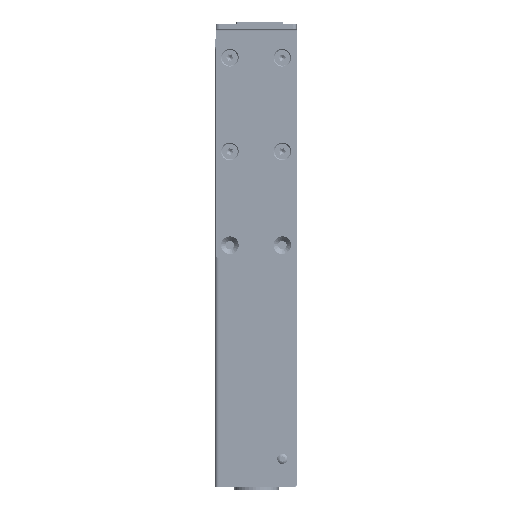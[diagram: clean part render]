
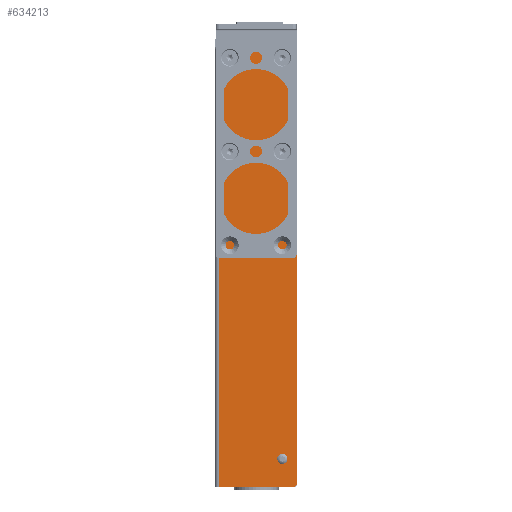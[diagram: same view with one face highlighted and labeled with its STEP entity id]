
A CAD part, left-side view. The second image highlights one B-rep face of the part: STEP entity #634213.
In plain terms, the highlighted planar face has unit normal (-1, 0, 0).
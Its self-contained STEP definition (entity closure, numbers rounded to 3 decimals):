
#17061 = VERTEX_POINT ( 'NONE', #1084762 ) ;
#17949 = DIRECTION ( 'NONE',  ( -1., 0., 0. ) ) ;
#23628 = DIRECTION ( 'NONE',  ( 0., -1., 0. ) ) ;
#35778 = DIRECTION ( 'NONE',  ( 1., 0., 0. ) ) ;
#37210 = CARTESIAN_POINT ( 'NONE',  ( -220., -2., 116.85 ) ) ;
#54537 = AXIS2_PLACEMENT_3D ( 'NONE', #322136, #945491, #847524 ) ;
#70189 = EDGE_CURVE ( 'NONE', #318135, #196844, #514395, .T. ) ;
#71410 = EDGE_CURVE ( 'NONE', #783633, #783633, #471752, .T. ) ;
#92162 = VERTEX_POINT ( 'NONE', #897837 ) ;
#117810 = DIRECTION ( 'NONE',  ( -1., 0., 0. ) ) ;
#123766 = ORIENTED_EDGE ( 'NONE', *, *, #754030, .T. ) ;
#129542 = DIRECTION ( 'NONE',  ( 0., 0., 1. ) ) ;
#146667 = AXIS2_PLACEMENT_3D ( 'NONE', #1050192, #1131036, #253632 ) ;
#157588 = CARTESIAN_POINT ( 'NONE',  ( -220., -41.8, 116.85 ) ) ;
#158159 = EDGE_CURVE ( 'NONE', #752779, #566073, #729357, .T. ) ;
#158429 = AXIS2_PLACEMENT_3D ( 'NONE', #613900, #706191, #538640 ) ;
#159098 = CIRCLE ( 'NONE', #877713, 1.8 ) ;
#183123 = CIRCLE ( 'NONE', #54537, 1.8 ) ;
#188076 = ORIENTED_EDGE ( 'NONE', *, *, #70189, .T. ) ;
#196844 = VERTEX_POINT ( 'NONE', #600708 ) ;
#216193 = LINE ( 'NONE', #37210, #367360 ) ;
#221864 = DIRECTION ( 'NONE',  ( -1., 0., 0. ) ) ;
#226679 = VECTOR ( 'NONE', #1072808, 1000. ) ;
#229085 = ORIENTED_EDGE ( 'NONE', *, *, #71410, .F. ) ;
#241171 = CARTESIAN_POINT ( 'NONE',  ( -220., -38.5, 112.25 ) ) ;
#253632 = DIRECTION ( 'NONE',  ( 0., -1., 0. ) ) ;
#257565 = EDGE_CURVE ( 'NONE', #566073, #961875, #873922, .T. ) ;
#259085 = EDGE_CURVE ( 'NONE', #17061, #17061, #355389, .T. ) ;
#261911 = DIRECTION ( 'NONE',  ( 0., 1., 0. ) ) ;
#280372 = CIRCLE ( 'NONE', #889323, 2.5 ) ;
#281678 = VERTEX_POINT ( 'NONE', #856463 ) ;
#293587 = VECTOR ( 'NONE', #1069224, 1000. ) ;
#318135 = VERTEX_POINT ( 'NONE', #406729 ) ;
#321981 = LINE ( 'NONE', #674207, #739825 ) ;
#322136 = CARTESIAN_POINT ( 'NONE',  ( -220., -36., -100.85 ) ) ;
#326460 = FACE_OUTER_BOUND ( 'NONE', #1060503, .T. ) ;
#329737 = VERTEX_POINT ( 'NONE', #410684 ) ;
#337900 = DIRECTION ( 'NONE',  ( 1., 0., 0. ) ) ;
#348684 = AXIS2_PLACEMENT_3D ( 'NONE', #741643, #221864, #1006999 ) ;
#349267 = FACE_BOUND ( 'NONE', #897667, .T. ) ;
#353123 = VECTOR ( 'NONE', #261911, 1000. ) ;
#355389 = CIRCLE ( 'NONE', #410571, 2.5 ) ;
#365041 = LINE ( 'NONE', #1005320, #293587 ) ;
#367360 = VECTOR ( 'NONE', #129542, 1000. ) ;
#376667 = VERTEX_POINT ( 'NONE', #1026135 ) ;
#383368 = DIRECTION ( 'NONE',  ( 0., 1., 0. ) ) ;
#406729 = CARTESIAN_POINT ( 'NONE',  ( -220., -41.8, -116.85 ) ) ;
#406947 = ORIENTED_EDGE ( 'NONE', *, *, #259085, .F. ) ;
#410571 = AXIS2_PLACEMENT_3D ( 'NONE', #479506, #17949, #23628 ) ;
#410684 = CARTESIAN_POINT ( 'NONE',  ( -220., -10.5, 62.25 ) ) ;
#418279 = VECTOR ( 'NONE', #549554, 1000. ) ;
#424527 = FACE_BOUND ( 'NONE', #598730, .T. ) ;
#430244 = PLANE ( 'NONE',  #901126 ) ;
#445899 = LINE ( 'NONE', #988155, #418279 ) ;
#471752 = CIRCLE ( 'NONE', #158429, 2.5 ) ;
#476826 = CARTESIAN_POINT ( 'NONE',  ( -220., -34.2, -100.85 ) ) ;
#479506 = CARTESIAN_POINT ( 'NONE',  ( -220., -36., 62.25 ) ) ;
#506750 = VERTEX_POINT ( 'NONE', #476826 ) ;
#511154 = CARTESIAN_POINT ( 'NONE',  ( -220., 0., 0. ) ) ;
#513564 = CARTESIAN_POINT ( 'NONE',  ( -220., -8., 112.25 ) ) ;
#514395 = CIRCLE ( 'NONE', #348684, 2. ) ;
#538640 = DIRECTION ( 'NONE',  ( 0., -1., 0. ) ) ;
#540119 = ORIENTED_EDGE ( 'NONE', *, *, #599492, .F. ) ;
#549554 = DIRECTION ( 'NONE',  ( 0., 0., 1. ) ) ;
#549732 = ORIENTED_EDGE ( 'NONE', *, *, #786726, .F. ) ;
#565186 = ORIENTED_EDGE ( 'NONE', *, *, #823772, .T. ) ;
#566073 = VERTEX_POINT ( 'NONE', #157588 ) ;
#567950 = ORIENTED_EDGE ( 'NONE', *, *, #722331, .T. ) ;
#568757 = ORIENTED_EDGE ( 'NONE', *, *, #158159, .T. ) ;
#598730 = EDGE_LOOP ( 'NONE', ( #229085 ) ) ;
#599492 = EDGE_CURVE ( 'NONE', #1057628, #961875, #216193, .T. ) ;
#600708 = CARTESIAN_POINT ( 'NONE',  ( -220., -43.8, -114.85 ) ) ;
#608356 = EDGE_CURVE ( 'NONE', #329737, #329737, #699713, .T. ) ;
#613900 = CARTESIAN_POINT ( 'NONE',  ( -220., -36., 112.25 ) ) ;
#634213 = ADVANCED_FACE ( 'NONE', ( #1140069, #424527, #955499, #349267, #701468, #326460 ), #430244, .F. ) ;
#640703 = EDGE_LOOP ( 'NONE', ( #727923 ) ) ;
#642869 = ORIENTED_EDGE ( 'NONE', *, *, #1119297, .T. ) ;
#645198 = EDGE_CURVE ( 'NONE', #281678, #506750, #445899, .T. ) ;
#653546 = CARTESIAN_POINT ( 'NONE',  ( -220., -36., -101.75 ) ) ;
#674207 = CARTESIAN_POINT ( 'NONE',  ( -220., -43.8, 0. ) ) ;
#686935 = CARTESIAN_POINT ( 'NONE',  ( -220., -2., -116.85 ) ) ;
#698203 = DIRECTION ( 'NONE',  ( -1., 0., 0. ) ) ;
#699713 = CIRCLE ( 'NONE', #146667, 2.5 ) ;
#701468 = FACE_BOUND ( 'NONE', #640703, .T. ) ;
#706191 = DIRECTION ( 'NONE',  ( -1., 0., 0. ) ) ;
#715069 = LINE ( 'NONE', #720777, #226679 ) ;
#716227 = VERTEX_POINT ( 'NONE', #1068259 ) ;
#720777 = CARTESIAN_POINT ( 'NONE',  ( -220., -37.8, -101.75 ) ) ;
#722331 = EDGE_CURVE ( 'NONE', #196844, #752779, #321981, .T. ) ;
#727923 = ORIENTED_EDGE ( 'NONE', *, *, #608356, .F. ) ;
#729357 = CIRCLE ( 'NONE', #894917, 2. ) ;
#732340 = EDGE_LOOP ( 'NONE', ( #565186, #642869, #852017, #123766 ) ) ;
#739825 = VECTOR ( 'NONE', #1026180, 1000. ) ;
#741643 = CARTESIAN_POINT ( 'NONE',  ( -220., -41.8, -114.85 ) ) ;
#752779 = VERTEX_POINT ( 'NONE', #977096 ) ;
#754030 = EDGE_CURVE ( 'NONE', #506750, #92162, #183123, .T. ) ;
#783633 = VERTEX_POINT ( 'NONE', #241171 ) ;
#786726 = EDGE_CURVE ( 'NONE', #716227, #716227, #280372, .T. ) ;
#818146 = EDGE_CURVE ( 'NONE', #1057628, #318135, #365041, .T. ) ;
#823772 = EDGE_CURVE ( 'NONE', #92162, #376667, #715069, .T. ) ;
#824350 = ORIENTED_EDGE ( 'NONE', *, *, #257565, .T. ) ;
#847524 = DIRECTION ( 'NONE',  ( 0., 1., 0. ) ) ;
#852017 = ORIENTED_EDGE ( 'NONE', *, *, #645198, .T. ) ;
#856463 = CARTESIAN_POINT ( 'NONE',  ( -220., -34.2, -101.75 ) ) ;
#863263 = DIRECTION ( 'NONE',  ( 0., 1., 0. ) ) ;
#873922 = LINE ( 'NONE', #1052755, #353123 ) ;
#877713 = AXIS2_PLACEMENT_3D ( 'NONE', #653546, #35778, #1011250 ) ;
#880708 = CARTESIAN_POINT ( 'NONE',  ( -220., -2., 116.85 ) ) ;
#889323 = AXIS2_PLACEMENT_3D ( 'NONE', #513564, #698203, #1125351 ) ;
#891664 = EDGE_LOOP ( 'NONE', ( #406947 ) ) ;
#894917 = AXIS2_PLACEMENT_3D ( 'NONE', #1081839, #117810, #383368 ) ;
#897667 = EDGE_LOOP ( 'NONE', ( #549732 ) ) ;
#897837 = CARTESIAN_POINT ( 'NONE',  ( -220., -37.8, -100.85 ) ) ;
#901126 = AXIS2_PLACEMENT_3D ( 'NONE', #511154, #337900, #863263 ) ;
#945491 = DIRECTION ( 'NONE',  ( 1., 0., 0. ) ) ;
#955499 = FACE_BOUND ( 'NONE', #891664, .T. ) ;
#961875 = VERTEX_POINT ( 'NONE', #880708 ) ;
#977096 = CARTESIAN_POINT ( 'NONE',  ( -220., -43.8, 114.85 ) ) ;
#988155 = CARTESIAN_POINT ( 'NONE',  ( -220., -34.2, -101.75 ) ) ;
#1005320 = CARTESIAN_POINT ( 'NONE',  ( -220., 0., -116.85 ) ) ;
#1006999 = DIRECTION ( 'NONE',  ( 0., 1., 0. ) ) ;
#1011250 = DIRECTION ( 'NONE',  ( 0., 1., 0. ) ) ;
#1026135 = CARTESIAN_POINT ( 'NONE',  ( -220., -37.8, -101.75 ) ) ;
#1026180 = DIRECTION ( 'NONE',  ( 0., 0., 1. ) ) ;
#1050192 = CARTESIAN_POINT ( 'NONE',  ( -220., -8., 62.25 ) ) ;
#1052755 = CARTESIAN_POINT ( 'NONE',  ( -220., 0., 116.85 ) ) ;
#1057628 = VERTEX_POINT ( 'NONE', #686935 ) ;
#1060503 = EDGE_LOOP ( 'NONE', ( #567950, #568757, #824350, #540119, #1129935, #188076 ) ) ;
#1068259 = CARTESIAN_POINT ( 'NONE',  ( -220., -10.5, 112.25 ) ) ;
#1069224 = DIRECTION ( 'NONE',  ( 0., -1., 0. ) ) ;
#1072808 = DIRECTION ( 'NONE',  ( 0., 0., -1. ) ) ;
#1081839 = CARTESIAN_POINT ( 'NONE',  ( -220., -41.8, 114.85 ) ) ;
#1084762 = CARTESIAN_POINT ( 'NONE',  ( -220., -38.5, 62.25 ) ) ;
#1119297 = EDGE_CURVE ( 'NONE', #376667, #281678, #159098, .T. ) ;
#1125351 = DIRECTION ( 'NONE',  ( 0., -1., 0. ) ) ;
#1129935 = ORIENTED_EDGE ( 'NONE', *, *, #818146, .T. ) ;
#1131036 = DIRECTION ( 'NONE',  ( -1., 0., 0. ) ) ;
#1140069 = FACE_BOUND ( 'NONE', #732340, .T. ) ;
